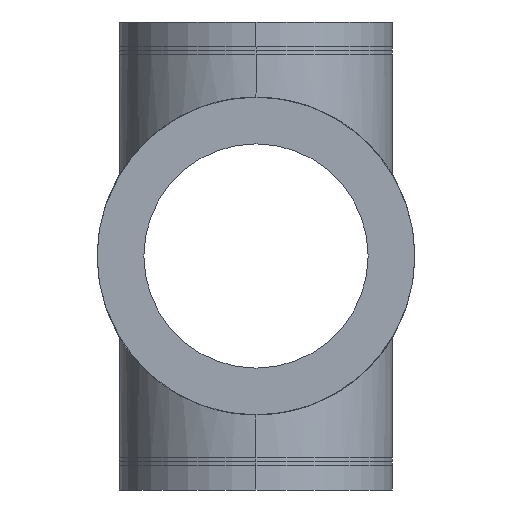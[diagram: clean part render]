
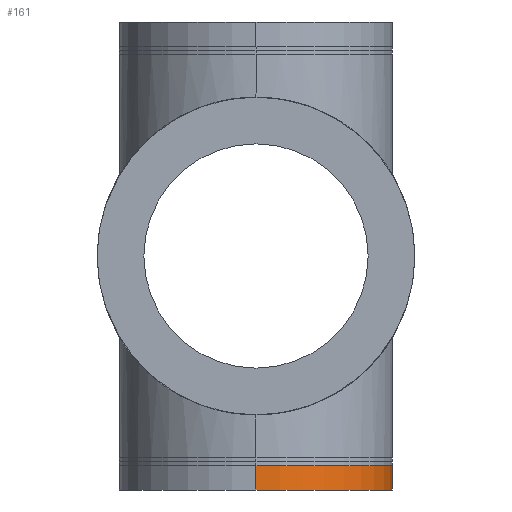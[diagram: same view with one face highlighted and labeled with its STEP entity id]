
A CAD part, front view. The second image highlights one B-rep face of the part: STEP entity #161.
In plain terms, the highlighted cylindrical face has radius 444.5 mm (diameter 889 mm), a partial arc.
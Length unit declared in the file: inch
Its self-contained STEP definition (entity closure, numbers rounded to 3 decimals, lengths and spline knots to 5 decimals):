
#21 = EDGE_CURVE('',#22,#24,#26,.T.);
#22 = VERTEX_POINT('',#23);
#23 = CARTESIAN_POINT('',(17.5,0.,-26.875));
#24 = VERTEX_POINT('',#25);
#25 = CARTESIAN_POINT('',(0.,-17.5,-26.875));
#26 = SURFACE_CURVE('',#27,(#32,#44),.PCURVE_S1.);
#27 = CIRCLE('',#28,17.5);
#28 = AXIS2_PLACEMENT_3D('',#29,#30,#31);
#29 = CARTESIAN_POINT('',(0.,0.,
    -26.875));
#30 = DIRECTION('',(0.,0.,-1.));
#31 = DIRECTION('',(-1.,0.,0.));
#32 = PCURVE('',#33,#38);
#33 = CYLINDRICAL_SURFACE('',#34,17.5);
#34 = AXIS2_PLACEMENT_3D('',#35,#36,#37);
#35 = CARTESIAN_POINT('',(0.,0.,30.)
  );
#36 = DIRECTION('',(0.,0.,-1.));
#37 = DIRECTION('',(1.,0.,0.));
#38 = DEFINITIONAL_REPRESENTATION('',(#39),#43);
#39 = LINE('',#40,#41);
#40 = CARTESIAN_POINT('',(-9.425,56.875));
#41 = VECTOR('',#42,1.);
#42 = DIRECTION('',(1.,0.));
#43 = ( GEOMETRIC_REPRESENTATION_CONTEXT(2) 
PARAMETRIC_REPRESENTATION_CONTEXT() REPRESENTATION_CONTEXT('2D SPACE',''
  ) );
#44 = PCURVE('',#45,#50);
#45 = CYLINDRICAL_SURFACE('',#46,17.5);
#46 = AXIS2_PLACEMENT_3D('',#47,#48,#49);
#47 = CARTESIAN_POINT('',(0.,0.,30.)
  );
#48 = DIRECTION('',(0.,0.,-1.));
#49 = DIRECTION('',(1.,0.,0.));
#50 = DEFINITIONAL_REPRESENTATION('',(#51),#55);
#51 = LINE('',#52,#53);
#52 = CARTESIAN_POINT('',(-9.425,56.875));
#53 = VECTOR('',#54,1.);
#54 = DIRECTION('',(1.,0.));
#55 = ( GEOMETRIC_REPRESENTATION_CONTEXT(2) 
PARAMETRIC_REPRESENTATION_CONTEXT() REPRESENTATION_CONTEXT('2D SPACE',''
  ) );
#161 = ADVANCED_FACE('',(#162),#45,.F.);
#162 = FACE_BOUND('',#163,.T.);
#163 = EDGE_LOOP('',(#164,#189,#190,#215));
#164 = ORIENTED_EDGE('',*,*,#165,.F.);
#165 = EDGE_CURVE('',#24,#166,#168,.T.);
#166 = VERTEX_POINT('',#167);
#167 = CARTESIAN_POINT('',(0.,-17.5,-30.));
#168 = SURFACE_CURVE('',#169,(#172,#178),.PCURVE_S1.);
#169 = B_SPLINE_CURVE_WITH_KNOTS('',1,(#170,#171),.UNSPECIFIED.,.F.,.F.,
  (2,2),(0.,1.),.PIECEWISE_BEZIER_KNOTS.);
#170 = CARTESIAN_POINT('',(0.,-17.5,30.));
#171 = CARTESIAN_POINT('',(0.,-17.5,-30.));
#172 = PCURVE('',#45,#173);
#173 = DEFINITIONAL_REPRESENTATION('',(#174),#177);
#174 = B_SPLINE_CURVE_WITH_KNOTS('',1,(#175,#176),.UNSPECIFIED.,.F.,.F.,
  (2,2),(0.,1.),.PIECEWISE_BEZIER_KNOTS.);
#175 = CARTESIAN_POINT('',(-4.712,0.));
#176 = CARTESIAN_POINT('',(-4.712,60.));
#177 = ( GEOMETRIC_REPRESENTATION_CONTEXT(2) 
PARAMETRIC_REPRESENTATION_CONTEXT() REPRESENTATION_CONTEXT('2D SPACE',''
  ) );
#178 = PCURVE('',#179,#184);
#179 = CYLINDRICAL_SURFACE('',#180,17.5);
#180 = AXIS2_PLACEMENT_3D('',#181,#182,#183);
#181 = CARTESIAN_POINT('',(0.,0.,30.)
  );
#182 = DIRECTION('',(0.,0.,-1.));
#183 = DIRECTION('',(1.,0.,0.));
#184 = DEFINITIONAL_REPRESENTATION('',(#185),#188);
#185 = B_SPLINE_CURVE_WITH_KNOTS('',1,(#186,#187),.UNSPECIFIED.,.F.,.F.,
  (2,2),(0.,1.),.PIECEWISE_BEZIER_KNOTS.);
#186 = CARTESIAN_POINT('',(-4.712,0.));
#187 = CARTESIAN_POINT('',(-4.712,60.));
#188 = ( GEOMETRIC_REPRESENTATION_CONTEXT(2) 
PARAMETRIC_REPRESENTATION_CONTEXT() REPRESENTATION_CONTEXT('2D SPACE',''
  ) );
#189 = ORIENTED_EDGE('',*,*,#21,.F.);
#190 = ORIENTED_EDGE('',*,*,#191,.T.);
#191 = EDGE_CURVE('',#22,#192,#194,.T.);
#192 = VERTEX_POINT('',#193);
#193 = CARTESIAN_POINT('',(17.5,0.,-30.));
#194 = SURFACE_CURVE('',#195,(#198,#204),.PCURVE_S1.);
#195 = B_SPLINE_CURVE_WITH_KNOTS('',1,(#196,#197),.UNSPECIFIED.,.F.,.F.,
  (2,2),(0.,1.),.PIECEWISE_BEZIER_KNOTS.);
#196 = CARTESIAN_POINT('',(17.5,0.,30.));
#197 = CARTESIAN_POINT('',(17.5,0.,-30.));
#198 = PCURVE('',#45,#199);
#199 = DEFINITIONAL_REPRESENTATION('',(#200),#203);
#200 = B_SPLINE_CURVE_WITH_KNOTS('',1,(#201,#202),.UNSPECIFIED.,.F.,.F.,
  (2,2),(0.,1.),.PIECEWISE_BEZIER_KNOTS.);
#201 = CARTESIAN_POINT('',(-6.283,0.));
#202 = CARTESIAN_POINT('',(-6.283,60.));
#203 = ( GEOMETRIC_REPRESENTATION_CONTEXT(2) 
PARAMETRIC_REPRESENTATION_CONTEXT() REPRESENTATION_CONTEXT('2D SPACE',''
  ) );
#204 = PCURVE('',#205,#210);
#205 = CYLINDRICAL_SURFACE('',#206,17.5);
#206 = AXIS2_PLACEMENT_3D('',#207,#208,#209);
#207 = CARTESIAN_POINT('',(0.,0.,30.)
  );
#208 = DIRECTION('',(0.,0.,-1.));
#209 = DIRECTION('',(1.,0.,0.));
#210 = DEFINITIONAL_REPRESENTATION('',(#211),#214);
#211 = B_SPLINE_CURVE_WITH_KNOTS('',1,(#212,#213),.UNSPECIFIED.,.F.,.F.,
  (2,2),(0.,1.),.PIECEWISE_BEZIER_KNOTS.);
#212 = CARTESIAN_POINT('',(0.,0.));
#213 = CARTESIAN_POINT('',(0.,60.));
#214 = ( GEOMETRIC_REPRESENTATION_CONTEXT(2) 
PARAMETRIC_REPRESENTATION_CONTEXT() REPRESENTATION_CONTEXT('2D SPACE',''
  ) );
#215 = ORIENTED_EDGE('',*,*,#216,.F.);
#216 = EDGE_CURVE('',#166,#192,#217,.T.);
#217 = SURFACE_CURVE('',#218,(#223),.PCURVE_S1.);
#218 = CIRCLE('',#219,17.5);
#219 = AXIS2_PLACEMENT_3D('',#220,#221,#222);
#220 = CARTESIAN_POINT('',(0.,0.,-30.)
  );
#221 = DIRECTION('',(0.,0.,1.));
#222 = DIRECTION('',(1.,0.,0.));
#223 = PCURVE('',#45,#224);
#224 = DEFINITIONAL_REPRESENTATION('',(#225),#229);
#225 = LINE('',#226,#227);
#226 = CARTESIAN_POINT('',(0.,60.));
#227 = VECTOR('',#228,1.);
#228 = DIRECTION('',(-1.,0.));
#229 = ( GEOMETRIC_REPRESENTATION_CONTEXT(2) 
PARAMETRIC_REPRESENTATION_CONTEXT() REPRESENTATION_CONTEXT('2D SPACE',''
  ) );
